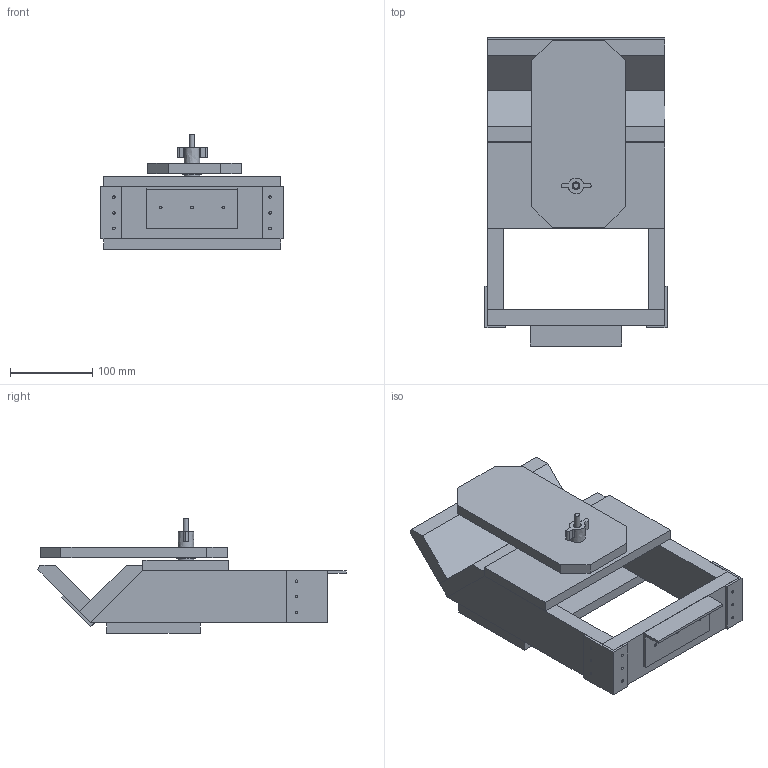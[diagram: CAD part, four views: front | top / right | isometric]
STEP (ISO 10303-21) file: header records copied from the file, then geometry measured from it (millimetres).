
FILE_DESCRIPTION ((), '1');
FILE_NAME ('/Volumes/Data/Drawings/Moi3D/bike clamp/bike clamp 20210601.stp', '2021-06-01T13:27:39', ('Unknown'), ('Unknown'), 'HarmonyWare STEP v2.1.4', 'HarmonyWare Translators', '');
FILE_SCHEMA (('CONFIG_CONTROL_DESIGN'));
Length unit declared in the file: inch
Products named in the file (19): Body 15; Body 10 (1); Body 13; Body 05; Body 04 (1); Body 04; Body 14; Body 12; Body 10; Body 10 (3); Body 09; Body 08; Body 03
Assembly tree (18 placements, depth 2):
  (unnamed)
    Body 15
    Body 10 (1)
    Body 13
    Body 05
    Body 04 (1)
    Body 04
    Body 14
    Body 12
    Body 10
    Body 14
    Body 10 (3)
    Body 12
    Body 09
    Body 08
    Body 03
    Body 10 (1)
    Body 10 (1)
    (unnamed)
Bounding box: 222.14 x 375.76 x 139.7 mm (x, y, z)
Volume: 2527193.3 mm3; surface area: 474556.8 mm2
Topology: 18 solids, 18 shells, 186 faces, 492 edges, 348 vertices
Faces by surface type: bspline 186
Entity records: 10156 total; most frequent: CARTESIAN_POINT 4390, ORIENTED_EDGE 976, EDGE_CURVE 488, VERTEX_POINT 344, B_SPLINE_CURVE_WITH_KNOTS 321, EDGE_LOOP 268, PERSON 188, ORGANIZATION 188
